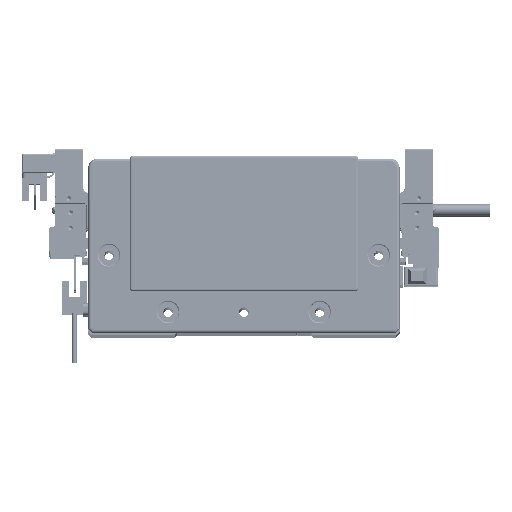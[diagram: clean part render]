
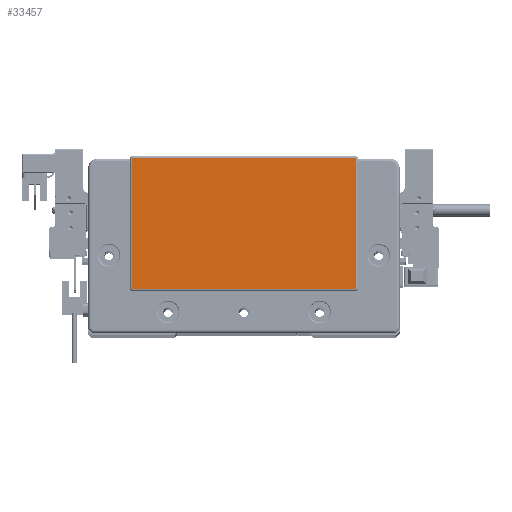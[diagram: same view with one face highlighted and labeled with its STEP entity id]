
A CAD part, top view. The second image highlights one B-rep face of the part: STEP entity #33457.
In plain terms, the highlighted planar face has unit normal (0, 0, 1) as drawn and (0, 0, -1) by its records, which use the part's own axes.
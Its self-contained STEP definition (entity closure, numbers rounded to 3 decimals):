
#1426 = LINE ( 'NONE', #98893, #94103 ) ;
#1802 = VERTEX_POINT ( 'NONE', #32061 ) ;
#4754 = CARTESIAN_POINT ( 'NONE',  ( 59.25, 45.3, -2. ) ) ;
#4979 = EDGE_CURVE ( 'NONE', #54951, #94144, #66163, .T. ) ;
#6637 = VERTEX_POINT ( 'NONE', #34631 ) ;
#7040 = CARTESIAN_POINT ( 'NONE',  ( 58.75, 45.8, -2. ) ) ;
#7226 = AXIS2_PLACEMENT_3D ( 'NONE', #15135, #49560, #81848 ) ;
#8343 = VECTOR ( 'NONE', #27862, 1000. ) ;
#10763 = AXIS2_PLACEMENT_3D ( 'NONE', #17051, #74246, #90647 ) ;
#11478 = EDGE_CURVE ( 'NONE', #1802, #54951, #21053, .T. ) ;
#11756 = ORIENTED_EDGE ( 'NONE', *, *, #41709, .T. ) ;
#12302 = CARTESIAN_POINT ( 'NONE',  ( 58.75, -23.3, -2. ) ) ;
#12541 = CIRCLE ( 'NONE', #92039, 0.5 ) ;
#14720 = DIRECTION ( 'NONE',  ( -1., 0., 0. ) ) ;
#15135 = CARTESIAN_POINT ( 'NONE',  ( 0., 0., -2. ) ) ;
#15285 = VERTEX_POINT ( 'NONE', #23464 ) ;
#15683 = ORIENTED_EDGE ( 'NONE', *, *, #40049, .T. ) ;
#17051 = CARTESIAN_POINT ( 'NONE',  ( -58.75, -23.3, -2. ) ) ;
#17407 = VECTOR ( 'NONE', #102094, 1000. ) ;
#20066 = VECTOR ( 'NONE', #54068, 1000. ) ;
#20287 = VERTEX_POINT ( 'NONE', #33862 ) ;
#21053 = LINE ( 'NONE', #84645, #17407 ) ;
#23464 = CARTESIAN_POINT ( 'NONE',  ( -58.75, -23.8, -2. ) ) ;
#24936 = EDGE_CURVE ( 'NONE', #103450, #97276, #12541, .T. ) ;
#25176 = PLANE ( 'NONE',  #7226 ) ;
#27862 = DIRECTION ( 'NONE',  ( -1., 0., 0. ) ) ;
#28236 = DIRECTION ( 'NONE',  ( 0., 0., -1. ) ) ;
#29486 = CARTESIAN_POINT ( 'NONE',  ( 58.75, -23.8, -2. ) ) ;
#30672 = CARTESIAN_POINT ( 'NONE',  ( -58.75, 45.3, -2. ) ) ;
#32061 = CARTESIAN_POINT ( 'NONE',  ( -58.75, 45.8, -2. ) ) ;
#33457 = ADVANCED_FACE ( 'NONE', ( #63853 ), #25176, .T. ) ;
#33862 = CARTESIAN_POINT ( 'NONE',  ( -59.25, 45.3, -2. ) ) ;
#34631 = CARTESIAN_POINT ( 'NONE',  ( -59.25, -23.3, -2. ) ) ;
#34733 = CARTESIAN_POINT ( 'NONE',  ( 58.75, 45.3, -2. ) ) ;
#40049 = EDGE_CURVE ( 'NONE', #94144, #103450, #85828, .T. ) ;
#41709 = EDGE_CURVE ( 'NONE', #20287, #1802, #81230, .T. ) ;
#43293 = DIRECTION ( 'NONE',  ( 0., 1., 0. ) ) ;
#47064 = DIRECTION ( 'NONE',  ( 0., 0., -1. ) ) ;
#49560 = DIRECTION ( 'NONE',  ( 0., 0., -1. ) ) ;
#51096 = ORIENTED_EDGE ( 'NONE', *, *, #79136, .T. ) ;
#54068 = DIRECTION ( 'NONE',  ( 0., -1., 0. ) ) ;
#54412 = ORIENTED_EDGE ( 'NONE', *, *, #95980, .T. ) ;
#54413 = CARTESIAN_POINT ( 'NONE',  ( 59.25, -23.3, -2. ) ) ;
#54951 = VERTEX_POINT ( 'NONE', #7040 ) ;
#55940 = AXIS2_PLACEMENT_3D ( 'NONE', #30672, #47064, #14720 ) ;
#56486 = CIRCLE ( 'NONE', #10763, 0.5 ) ;
#58048 = DIRECTION ( 'NONE',  ( -1., 0., 0. ) ) ;
#58576 = DIRECTION ( 'NONE',  ( 0., 0., -1. ) ) ;
#58600 = LINE ( 'NONE', #90861, #8343 ) ;
#60253 = ORIENTED_EDGE ( 'NONE', *, *, #73811, .T. ) ;
#60532 = DIRECTION ( 'NONE',  ( -1., 0., 0. ) ) ;
#63853 = FACE_OUTER_BOUND ( 'NONE', #78287, .T. ) ;
#66163 = CIRCLE ( 'NONE', #98299, 0.5 ) ;
#66221 = ORIENTED_EDGE ( 'NONE', *, *, #11478, .T. ) ;
#73811 = EDGE_CURVE ( 'NONE', #97276, #15285, #58600, .T. ) ;
#74246 = DIRECTION ( 'NONE',  ( 0., 0., -1. ) ) ;
#78263 = ORIENTED_EDGE ( 'NONE', *, *, #4979, .T. ) ;
#78287 = EDGE_LOOP ( 'NONE', ( #15683, #95280, #60253, #51096, #54412, #11756, #66221, #78263 ) ) ;
#79136 = EDGE_CURVE ( 'NONE', #15285, #6637, #56486, .T. ) ;
#81230 = CIRCLE ( 'NONE', #55940, 0.5 ) ;
#81848 = DIRECTION ( 'NONE',  ( -1., 0., 0. ) ) ;
#84645 = CARTESIAN_POINT ( 'NONE',  ( 58.75, 45.8, -2. ) ) ;
#85828 = LINE ( 'NONE', #102775, #20066 ) ;
#90647 = DIRECTION ( 'NONE',  ( -1., 0., 0. ) ) ;
#90861 = CARTESIAN_POINT ( 'NONE',  ( -58.75, -23.8, -2. ) ) ;
#92039 = AXIS2_PLACEMENT_3D ( 'NONE', #12302, #28236, #60532 ) ;
#94103 = VECTOR ( 'NONE', #43293, 1000. ) ;
#94144 = VERTEX_POINT ( 'NONE', #4754 ) ;
#95280 = ORIENTED_EDGE ( 'NONE', *, *, #24936, .T. ) ;
#95980 = EDGE_CURVE ( 'NONE', #6637, #20287, #1426, .T. ) ;
#97276 = VERTEX_POINT ( 'NONE', #29486 ) ;
#98299 = AXIS2_PLACEMENT_3D ( 'NONE', #34733, #58576, #58048 ) ;
#98893 = CARTESIAN_POINT ( 'NONE',  ( -59.25, 45.3, -2. ) ) ;
#102094 = DIRECTION ( 'NONE',  ( 1., 0., 0. ) ) ;
#102775 = CARTESIAN_POINT ( 'NONE',  ( 59.25, -23.3, -2. ) ) ;
#103450 = VERTEX_POINT ( 'NONE', #54413 ) ;
